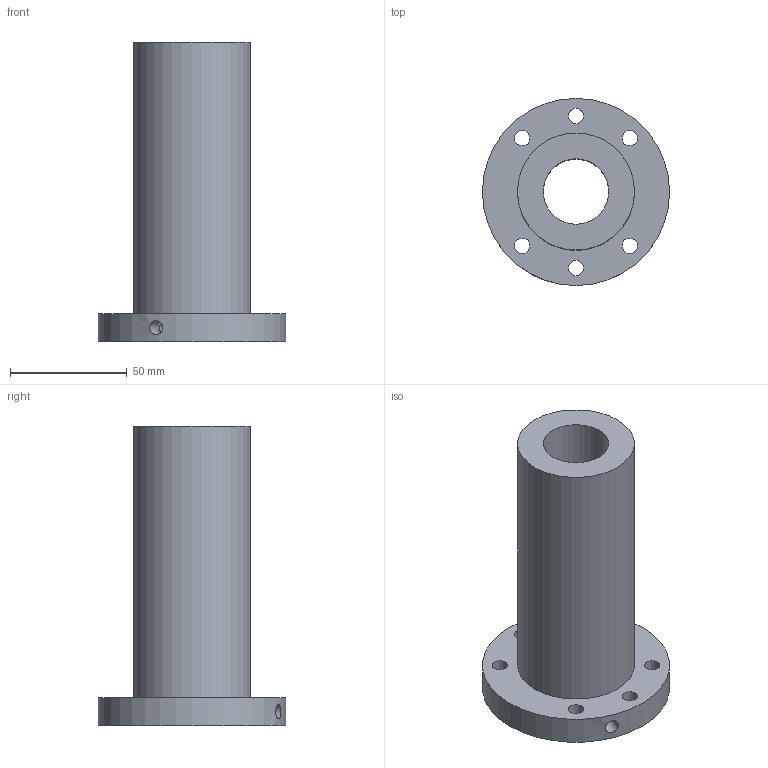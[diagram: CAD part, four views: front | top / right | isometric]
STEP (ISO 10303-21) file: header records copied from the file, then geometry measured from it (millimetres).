
FILE_DESCRIPTION(/* description */ (''),/* implementation_level */ '2;1');
FILE_NAME(/* name */ '28-8K5_4763',/* time_stamp */ '2007-10-15T12:54:01+08:00',/* author */ (''),/* organization */ (''),/* preprocessor_version */ 'ST-DEVELOPER v11',/* originating_system */ 'UGS - NX 5.0',/* authorisation */ '');
FILE_SCHEMA (('CONFIG_CONTROL_DESIGN'));
Length unit declared in the file: millimetre
Products named in the file (1): 28-8K5_4763
Bounding box: 80 x 80 x 128 mm (x, y, z)
Volume: 206352.7 mm3; surface area: 42752.2 mm2
Topology: 1 solids, 1 shells, 15 faces, 34 edges, 23 vertices
Faces by surface type: cylinder 11, plane 4
Full cylindrical faces by diameter (mm): 4 x1, 6 x1, 6.6 x6, 28 x1, 50 x1, 80 x1
Entity records: 600 total; most frequent: CARTESIAN_POINT 174, DIRECTION 72, FACE_BOUND 44, EDGE_LOOP 44, ORIENTED_EDGE 44, AXIS2_PLACEMENT_3D 36, VERTEX_POINT 22, EDGE_CURVE 22
